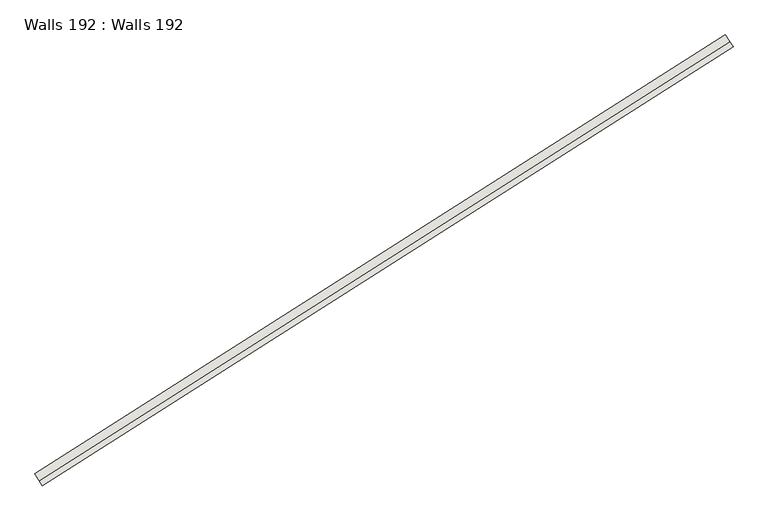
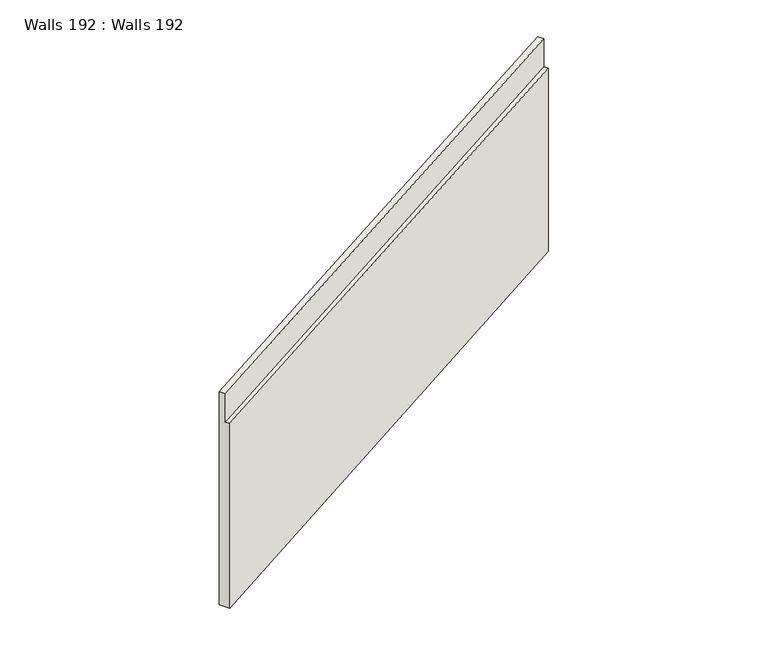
"""IFC4 building model written with IfcOpenShell, lengths in millimetres: wall geometry, Walls 192 : Walls 192."""

from ifc_helpers import new_model, si_unit, frame, origin, place, context, project, spatial, source, transform, mapped, element, save
from ifc_brep_helpers import plane_surface, spline_curve, spline_surface, advanced_brep


def walls_192_walls_192_b033705a(model_context):
    return source(origin(), model_context, "Body", "AdvancedBrep", [
        advanced_brep(
        [(308160.8136557, 192658.3463593, 643380.0), (308340.0782147, 192357.7400623, 643380.0), (308340.0782147, 192357.7400623, 649940.0), (308263.2505466, 192486.5713325, 649940.0), (308263.2505466, 192486.5713325, 650940.0), (308160.8136557, 192658.3463593, 650940.0), (325036.3409959, 203387.1764331, 643620.0), (325036.3409959, 203387.1764331, 651130.0), (325148.4210958, 203221.5320815, 651130.0), (325148.4210958, 203221.5320815, 650130.0), (325232.4811708, 203097.2988179, 650130.0), (325232.4811708, 203097.2988179, 643620.0)],
        [
            (0, 1),
            (1, 2),
            (2, 3),
            (3, 4),
            (4, 5),
            (5, 0),
            (6, 7),
            (7, 8),
            (8, 9),
            (9, 10),
            (10, 11),
            (11, 6),
            (9, 3, spline_curve(3, [(325148.4210958, 203221.5320815, 650130.0), (319623.800802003, 199483.374802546, 650066.666665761), (313992.347396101, 195903.107039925, 650003.333334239), (308263.2505466, 192486.5713325, 649940.0)], [4, 4], [0.0, 65.66907601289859])),
            (2, 10, spline_curve(3, [(308340.0782147, 192357.7400623, 649940.0), (314071.628999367, 195775.739141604, 650003.333334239), (319705.494520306, 199357.540406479, 650066.666665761), (325232.4811708, 203097.2988179, 650130.0)], [4, 4], [0.0, 65.66907601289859])),
            (7, 5, spline_curve(3, [(325036.3409959, 203387.1764331, 651130.0), (319514.875842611, 199651.153996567, 651066.666665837), (313886.638589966, 196072.930904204, 651003.333334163), (308160.8136557, 192658.3463593, 650940.0)], [4, 4], [0.0, 65.63627021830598])),
            (4, 8, spline_curve(3, [(308263.2505466, 192486.5713325, 650940.0), (313992.347396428, 195903.107040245, 651003.333334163), (319623.800800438, 199483.374801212, 651066.666665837), (325148.4210958, 203221.5320815, 651130.0)], [4, 4], [0.0, 65.63627021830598])),
            (6, 0, spline_curve(3, [(325036.3409959, 203387.1764331, 643620.0), (319514.875842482, 199651.153997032, 643540.000000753), (313886.638589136, 196072.930905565, 643459.999999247), (308160.8136557, 192658.3463593, 643380.0)], [4, 4], [0.0, 65.61835449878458])),
            (11, 1, spline_curve(3, [(325232.4811708, 203097.2988179, 643620.0), (319705.494520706, 199357.540406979, 643539.999999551), (314071.629000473, 195775.73914197, 643460.000000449), (308340.0782147, 192357.7400623, 643380.0)], [4, 4], [0.0, 65.65209237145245])),
        ],
        [
            plane_surface(frame((308254.714139, 192500.885918, 648086.6666667), z_axis=(-0.8588753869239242, -0.5121846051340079, 0.0), x_axis=(0.0, 0.0, 1.0))),
            plane_surface(frame((325139.0810875, 203235.3357775, 648293.3333333), z_axis=(0.8282217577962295, 0.5604004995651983, 0.0), x_axis=(0.5604004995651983, -0.8282217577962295, 0.0))),
            spline_surface(3, 3, [[(325232.4811708, 203097.2988179, 650130.0), (319705.494520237, 199357.540406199, 650066.666666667), (314071.629000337, 195775.739141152, 650003.333333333), (308340.0782147, 192357.7400623, 649940.0)], [(325204.461145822, 203138.70990579, 650130.0), (319678.263280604, 199399.485204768, 650066.666666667), (314045.201798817, 195818.195107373, 650003.333333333), (308314.468991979, 192400.683819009, 649940.0)], [(325176.441120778, 203180.12099361, 650130.0), (319651.032040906, 199441.430003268, 650066.666666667), (314018.774597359, 195860.651073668, 650003.333333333), (308288.859769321, 192443.627575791, 649940.0)], [(325148.4210958, 203221.5320815, 650130.0), (319623.800801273, 199483.374801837, 650066.666666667), (313992.347395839, 195903.107039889, 650003.333333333), (308263.2505466, 192486.5713325, 649940.0)]], [4, 4], [4, 4], [0.0, 0.49212589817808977], [0.0, 65.66907601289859]),
            spline_surface(3, 3, [[(325148.4210958, 203221.5320815, 651130.0), (319623.800801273, 199483.374801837, 651066.666666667), (313992.347395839, 195903.107039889, 651003.333333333), (308263.2505466, 192486.5713325, 650940.0)], [(325111.061062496, 203276.746865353, 651130.0), (319587.492481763, 199539.301199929, 651066.666666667), (313957.111127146, 195959.714994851, 651003.333333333), (308229.104916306, 192543.829674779, 650940.0)], [(325073.701029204, 203331.961649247, 651130.0), (319551.184162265, 199595.227598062, 651066.666666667), (313921.874858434, 196016.322949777, 651003.333333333), (308194.959285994, 192601.088017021, 650940.0)], [(325036.3409959, 203387.1764331, 651130.0), (319514.875842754, 199651.153996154, 651066.666666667), (313886.638589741, 196072.930904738, 651003.333333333), (308160.8136557, 192658.3463593, 650940.0)]], [4, 4], [4, 4], [0.0, 0.6561678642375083], [0.0, 65.63627021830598]),
            spline_surface(3, 3, [[(325036.3409959, 203387.1764331, 651130.0), (319514.875842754, 199651.153996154, 651066.666666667), (313886.638589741, 196072.930904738, 651003.333333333), (308160.8136557, 192658.3463593, 650940.0)], [(325036.3409959, 203387.1764331, 648626.666666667), (319514.875842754, 199651.153996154, 648557.777777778), (313886.638589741, 196072.930904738, 648488.888888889), (308160.8136557, 192658.3463593, 648420.0)], [(325036.3409959, 203387.1764331, 646123.333333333), (319514.875842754, 199651.153996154, 646048.888888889), (313886.638589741, 196072.930904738, 645974.444444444), (308160.8136557, 192658.3463593, 645900.0)], [(325036.3409959, 203387.1764331, 643620.0), (319514.875842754, 199651.153996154, 643540.0), (313886.638589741, 196072.930904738, 643460.0), (308160.8136557, 192658.3463593, 643380.0)]], [4, 4], [4, 4], [0.0, 24.721128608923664], [0.0, 65.61835449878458]),
            spline_surface(3, 3, [[(325036.3409959, 203387.1764331, 643620.0), (319514.875842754, 199651.153996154, 643540.0), (313886.638589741, 196072.930904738, 643460.0), (308160.8136557, 192658.3463593, 643380.0)], [(325101.721054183, 203290.550561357, 643620.0), (319578.415401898, 199553.282799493, 643540.0), (313948.302059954, 195973.866983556, 643460.0), (308220.568508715, 192558.144260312, 643380.0)], [(325167.101112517, 203193.924689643, 643620.0), (319641.954961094, 199455.41160286, 643540.0), (314009.965530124, 195874.803062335, 643460.0), (308280.323361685, 192457.942161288, 643380.0)], [(325232.4811708, 203097.2988179, 643620.0), (319705.494520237, 199357.540406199, 643540.0), (314071.629000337, 195775.739141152, 643460.0), (308340.0782147, 192357.7400623, 643380.0)]], [4, 4], [4, 4], [0.0, 1.148293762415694], [0.0, 65.65209237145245]),
            spline_surface(3, 3, [[(325232.4811708, 203097.2988179, 643620.0), (319705.494520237, 199357.540406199, 643540.0), (314071.629000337, 195775.739141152, 643460.0), (308340.0782147, 192357.7400623, 643380.0)], [(325232.4811708, 203097.2988179, 645790.0), (319705.494520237, 199357.540406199, 645715.555555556), (314071.629000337, 195775.739141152, 645641.111111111), (308340.0782147, 192357.7400623, 645566.666666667)], [(325232.4811708, 203097.2988179, 647960.0), (319705.494520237, 199357.540406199, 647891.111111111), (314071.629000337, 195775.739141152, 647822.222222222), (308340.0782147, 192357.7400623, 647753.333333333)], [(325232.4811708, 203097.2988179, 650130.0), (319705.494520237, 199357.540406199, 650066.666666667), (314071.629000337, 195775.739141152, 650003.333333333), (308340.0782147, 192357.7400623, 649940.0)]], [4, 4], [4, 4], [0.0, 21.440288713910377], [0.0, 65.68396525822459]),
            spline_surface(3, 3, [[(325148.4210958, 203221.5320815, 650130.0), (319623.800801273, 199483.374801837, 650066.666666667), (313992.347395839, 195903.107039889, 650003.333333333), (308263.2505466, 192486.5713325, 649940.0)], [(325148.4210958, 203221.5320815, 650463.333333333), (319623.800801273, 199483.374801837, 650400.0), (313992.347395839, 195903.107039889, 650336.666666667), (308263.2505466, 192486.5713325, 650273.333333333)], [(325148.4210958, 203221.5320815, 650796.666666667), (319623.800801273, 199483.374801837, 650733.333333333), (313992.347395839, 195903.107039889, 650670.0), (308263.2505466, 192486.5713325, 650606.666666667)], [(325148.4210958, 203221.5320815, 651130.0), (319623.800801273, 199483.374801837, 651066.666666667), (313992.347395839, 195903.107039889, 651003.333333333), (308263.2505466, 192486.5713325, 650940.0)]], [4, 4], [4, 4], [0.0, 3.280839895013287], [0.0, 65.65501638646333]),
        ],
        [
            (0, [[1, 2, 3, 4, 5, 6]]),
            (1, [[7, 8, 9, 10, 11, 12]]),
            (2, [[-10, 13, -3, 14]]),
            (3, [[-8, 15, -5, 16]]),
            (4, [[-7, 17, -6, -15]]),
            (5, [[-12, 18, -1, -17]]),
            (6, [[-11, -14, -2, -18]]),
            (7, [[-9, -16, -4, -13]]),
        ],
    ),
    ])


if __name__ == "__main__":
    model = new_model("IFC4")
    model_context = context("Model", 3, world=origin())
    ifc_project = project(units=[si_unit("LENGTHUNIT", "METRE", prefix="MILLI")], contexts=[model_context])
    site = spatial("IfcSite", under=ifc_project)
    building = spatial("IfcBuilding", under=site)
    placement = place(None, origin())
    walls_192_walls_192_shape = walls_192_walls_192_b033705a(model_context)
    element("IfcWall", 1, ObjectType="Walls 192 : Walls 192", at=placement, inside=building, context=model_context, shape_type="MappedRepresentation", body=[
        mapped(walls_192_walls_192_shape, transform((0.0, 0.0, 0.0), x_axis=(1.0, 0.0, 0.0), y_axis=(0.0, 1.0, 0.0), z_axis=(0.0, 0.0, 1.0))),
    ])
    save(model, "model.ifc")
